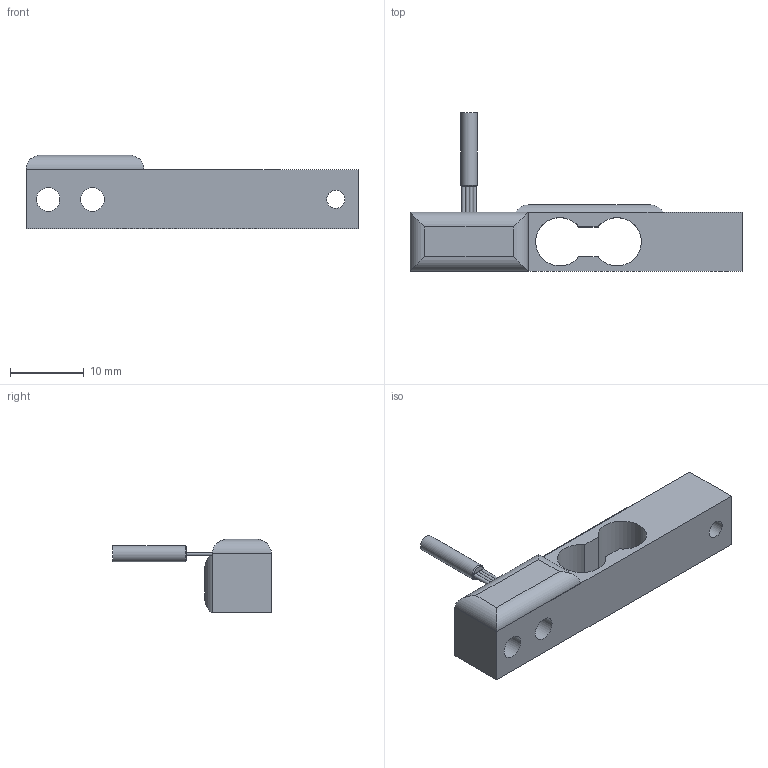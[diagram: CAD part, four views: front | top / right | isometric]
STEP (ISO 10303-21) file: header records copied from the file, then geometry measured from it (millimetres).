
FILE_DESCRIPTION(/* description */ ('Alibre Inc.'),/* implementation_level */ '2;1');
FILE_NAME(/* name */ 'export0',/* time_stamp */ '2017-03-15T14:22:51+01:00',/* author */ (''),/* organization */ (''),/* preprocessor_version */ 'ST-DEVELOPER v14',/* originating_system */ 'Alibre',/* authorisation */ '');
FILE_SCHEMA (('CONFIG_CONTROL_DESIGN'));
Length unit declared in the file: centimetre
Products named in the file (6): ID_1; ID_2; ID_3
Bounding box: 45 x 21.5 x 10 mm (x, y, z)
Volume: 2513.3 mm3; surface area: 2651.7 mm2
Topology: 4 solids, 4 shells, 37 faces, 83 edges, 56 vertices
Faces by surface type: cylinder 18, plane 18, cone 1
Full cylindrical faces by diameter (mm): 0.498 x4, 2.2 x1, 2.459 x1, 3.2 x2
Entity records: 1620 total; most frequent: CARTESIAN_POINT 218, DIRECTION 172, ORIENTED_EDGE 138, AXIS2_PLACEMENT_3D 77, EDGE_CURVE 69, PERSON_AND_ORGANIZATION 58, EDGE_LOOP 56, FACE_BOUND 56
